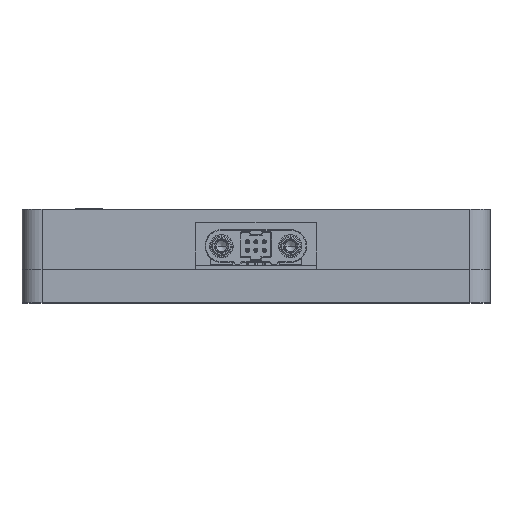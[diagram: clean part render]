
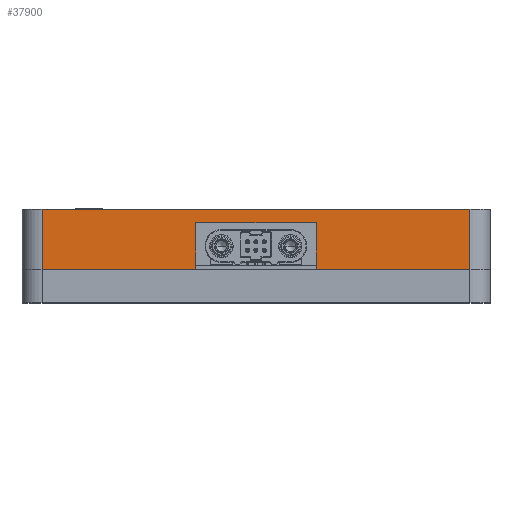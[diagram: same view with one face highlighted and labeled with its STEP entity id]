
A CAD part, top view. The second image highlights one B-rep face of the part: STEP entity #37900.
In plain terms, the highlighted planar face has unit normal (0, 0, 1).
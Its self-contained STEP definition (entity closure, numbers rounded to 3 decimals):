
#1666 = EDGE_CURVE ( 'NONE', #69563, #70580, #75816, .T. ) ;
#1745 = VECTOR ( 'NONE', #7363, 1000. ) ;
#3214 = VECTOR ( 'NONE', #78921, 1000. ) ;
#7363 = DIRECTION ( 'NONE',  ( -1., 0., 0. ) ) ;
#7625 = CARTESIAN_POINT ( 'NONE',  ( 57.022, 33.502, 88.071 ) ) ;
#11641 = EDGE_CURVE ( 'NONE', #32395, #95420, #145361, .T. ) ;
#11815 = CARTESIAN_POINT ( 'NONE',  ( 57.022, 33.502, 88.071 ) ) ;
#12448 = AXIS2_PLACEMENT_3D ( 'NONE', #11815, #26829, #23693 ) ;
#14012 = CARTESIAN_POINT ( 'NONE',  ( -6.978, 33.502, 88.071 ) ) ;
#18487 = LINE ( 'NONE', #19266, #1745 ) ;
#19266 = CARTESIAN_POINT ( 'NONE',  ( 57.022, 33.502, 88.071 ) ) ;
#23513 = VECTOR ( 'NONE', #133499, 1000. ) ;
#23693 = DIRECTION ( 'NONE',  ( 0., 1., 0. ) ) ;
#25063 = CARTESIAN_POINT ( 'NONE',  ( 34.022, 32.512, 88.071 ) ) ;
#26829 = DIRECTION ( 'NONE',  ( 0., 0., -1. ) ) ;
#28059 = VERTEX_POINT ( 'NONE', #131823 ) ;
#29440 = VECTOR ( 'NONE', #133525, 1000. ) ;
#32395 = VERTEX_POINT ( 'NONE', #59920 ) ;
#35377 = ORIENTED_EDGE ( 'NONE', *, *, #1666, .F. ) ;
#37900 = ADVANCED_FACE ( 'NONE', ( #127661 ), #115012, .F. ) ;
#38946 = CARTESIAN_POINT ( 'NONE',  ( 16.022, 33.502, 88.071 ) ) ;
#38983 = VECTOR ( 'NONE', #132042, 1000. ) ;
#39326 = LINE ( 'NONE', #25063, #29440 ) ;
#40780 = CARTESIAN_POINT ( 'NONE',  ( 57.022, 33.502, 88.071 ) ) ;
#49935 = CARTESIAN_POINT ( 'NONE',  ( 34.022, 40.502, 88.071 ) ) ;
#55484 = ORIENTED_EDGE ( 'NONE', *, *, #123961, .T. ) ;
#56832 = CARTESIAN_POINT ( 'NONE',  ( 34.022, 40.502, 88.071 ) ) ;
#58099 = VECTOR ( 'NONE', #100319, 1000. ) ;
#59920 = CARTESIAN_POINT ( 'NONE',  ( 16.022, 40.502, 88.071 ) ) ;
#61150 = VECTOR ( 'NONE', #101741, 1000. ) ;
#65456 = ORIENTED_EDGE ( 'NONE', *, *, #138654, .F. ) ;
#69563 = VERTEX_POINT ( 'NONE', #121046 ) ;
#70580 = VERTEX_POINT ( 'NONE', #128253 ) ;
#74836 = VERTEX_POINT ( 'NONE', #131306 ) ;
#75116 = LINE ( 'NONE', #83819, #38983 ) ;
#75816 = LINE ( 'NONE', #14012, #58099 ) ;
#77146 = ORIENTED_EDGE ( 'NONE', *, *, #140815, .F. ) ;
#77531 = EDGE_CURVE ( 'NONE', #95420, #69563, #137472, .T. ) ;
#78921 = DIRECTION ( 'NONE',  ( -1., 0., 0. ) ) ;
#83819 = CARTESIAN_POINT ( 'NONE',  ( 57.022, 42.502, 88.071 ) ) ;
#85281 = CARTESIAN_POINT ( 'NONE',  ( 16.022, 32.512, 88.071 ) ) ;
#87871 = EDGE_CURVE ( 'NONE', #109870, #32395, #94001, .T. ) ;
#94001 = LINE ( 'NONE', #56832, #141230 ) ;
#95420 = VERTEX_POINT ( 'NONE', #38946 ) ;
#95797 = VERTEX_POINT ( 'NONE', #107645 ) ;
#100319 = DIRECTION ( 'NONE',  ( 0., 1., 0. ) ) ;
#100873 = ORIENTED_EDGE ( 'NONE', *, *, #153000, .T. ) ;
#101741 = DIRECTION ( 'NONE',  ( 0., 1., 0. ) ) ;
#103789 = ORIENTED_EDGE ( 'NONE', *, *, #11641, .F. ) ;
#107645 = CARTESIAN_POINT ( 'NONE',  ( 57.022, 33.502, 88.071 ) ) ;
#109870 = VERTEX_POINT ( 'NONE', #49935 ) ;
#112423 = ORIENTED_EDGE ( 'NONE', *, *, #87871, .F. ) ;
#115012 = PLANE ( 'NONE',  #12448 ) ;
#115152 = ORIENTED_EDGE ( 'NONE', *, *, #77531, .F. ) ;
#118528 = DIRECTION ( 'NONE',  ( -1., 0., 0. ) ) ;
#121046 = CARTESIAN_POINT ( 'NONE',  ( -6.978, 33.502, 88.071 ) ) ;
#123961 = EDGE_CURVE ( 'NONE', #28059, #70580, #75116, .T. ) ;
#127661 = FACE_OUTER_BOUND ( 'NONE', #155590, .T. ) ;
#128253 = CARTESIAN_POINT ( 'NONE',  ( -6.978, 42.502, 88.071 ) ) ;
#131306 = CARTESIAN_POINT ( 'NONE',  ( 34.022, 33.502, 88.071 ) ) ;
#131823 = CARTESIAN_POINT ( 'NONE',  ( 57.022, 42.502, 88.071 ) ) ;
#132042 = DIRECTION ( 'NONE',  ( -1., 0., 0. ) ) ;
#133499 = DIRECTION ( 'NONE',  ( 0., -1., 0. ) ) ;
#133525 = DIRECTION ( 'NONE',  ( 0., 1., 0. ) ) ;
#137472 = LINE ( 'NONE', #7625, #3214 ) ;
#138654 = EDGE_CURVE ( 'NONE', #74836, #109870, #39326, .T. ) ;
#140815 = EDGE_CURVE ( 'NONE', #95797, #74836, #18487, .T. ) ;
#141230 = VECTOR ( 'NONE', #118528, 1000. ) ;
#145361 = LINE ( 'NONE', #85281, #23513 ) ;
#149197 = LINE ( 'NONE', #40780, #61150 ) ;
#153000 = EDGE_CURVE ( 'NONE', #95797, #28059, #149197, .T. ) ;
#155590 = EDGE_LOOP ( 'NONE', ( #115152, #103789, #112423, #65456, #77146, #100873, #55484, #35377 ) ) ;
